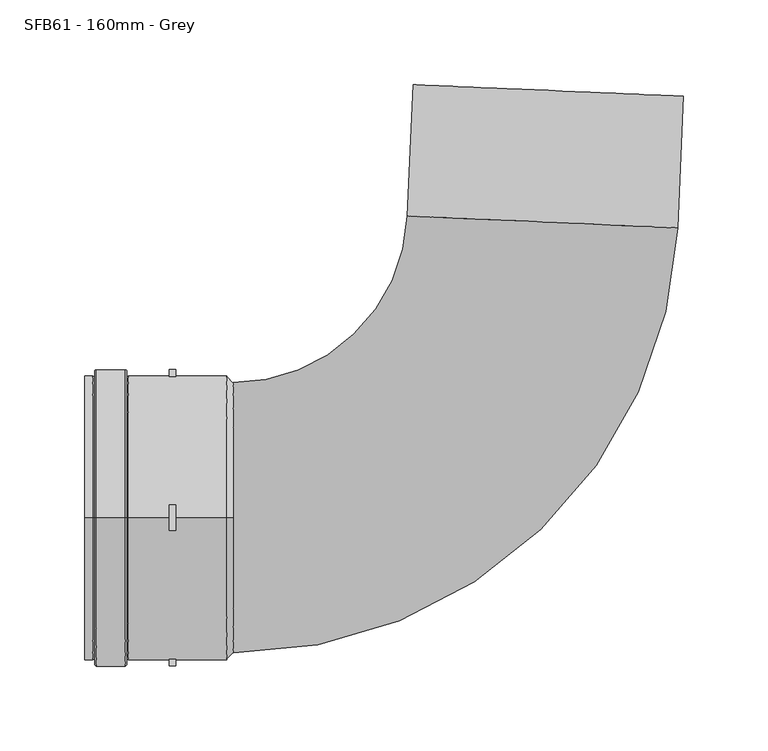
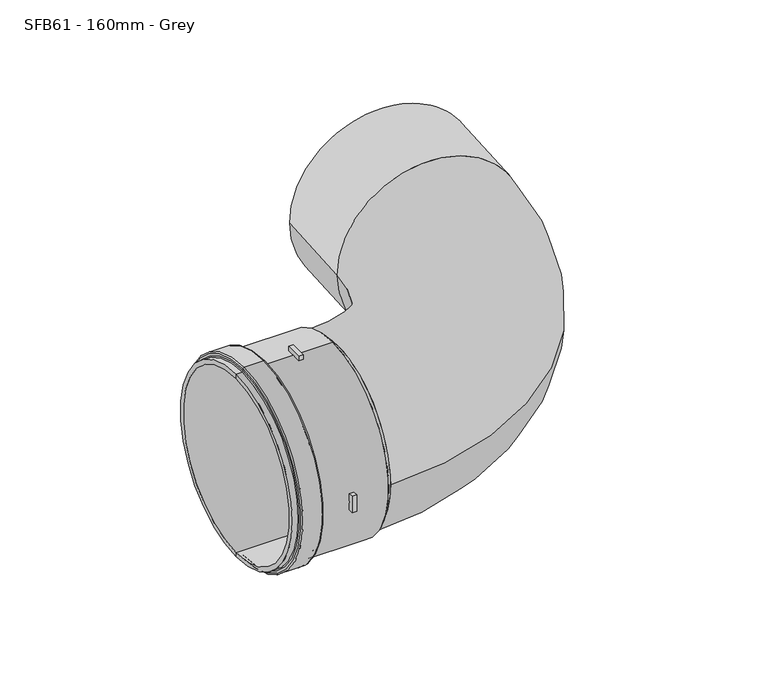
"""IFC4 building model written with IfcOpenShell, lengths in millimetres: pipe fitting geometry, MarleyPlumbingAndDrainage_PipeFitting_ShortRadiusBend87-5 : SFB61 - 160mm - Grey."""

from ifc_helpers import new_model, si_unit, point, frame, origin, origin_2d, place, context, project, spatial, polyline, circle_curve, ellipse_curve, trimmed, segment, composite_curve, outline, extrude, source, transform, mapped, element, save
from ifc_brep_helpers import plane_surface, cylinder_surface, revolved_surface, advanced_brep


def sfb61_160mm_grey_c58e272d(model_context):
    return source(origin(), model_context, "Body", "SolidModel", [
        extrude(outline(composite_curve([segment(trimmed(circle_curve(origin_2d(), 84.0), [point((-7.5, -83.6645086))], [point((7.5, -83.6645086))], True, "CARTESIAN"), True, "CONTINUOUS"), segment(polyline([(7.5, -83.6645086), (7.5, -87.6798152)]), True, "CONTINUOUS"), segment(trimmed(circle_curve(origin_2d(), 88.0), [point((7.5, -87.6798152))], [point((-7.5, -87.6798152))], False, "CARTESIAN"), True, "CONTINUOUS"), segment(polyline([(-7.5, -87.6798152), (-7.5, -83.6645086)]), True, "CONTINUOUS")], self_intersect=False)), frame((-227.9511769, 0.0, 0.0), z_axis=(1.0, 0.0, 0.0), x_axis=(0.0, 1.0, 0.0)), (0.0, 0.0, 1.0), 4.0),
        extrude(outline(composite_curve([segment(trimmed(circle_curve(origin_2d(), 84.0), [point((7.5, 83.6645086))], [point((-7.5, 83.6645086))], True, "CARTESIAN"), True, "CONTINUOUS"), segment(polyline([(-7.5, 83.6645086), (-7.5, 87.6798152)]), True, "CONTINUOUS"), segment(trimmed(circle_curve(origin_2d(), 88.0), [point((-7.5, 87.6798152))], [point((7.5, 87.6798152))], False, "CARTESIAN"), True, "CONTINUOUS"), segment(polyline([(7.5, 87.6798152), (7.5, 83.6645086)]), True, "CONTINUOUS")], self_intersect=False)), frame((-227.9511769, 0.0, 0.0), z_axis=(1.0, 0.0, 0.0), x_axis=(0.0, 1.0, 0.0)), (0.0, 0.0, 1.0), 4.0),
        extrude(outline(composite_curve([segment(trimmed(circle_curve(origin_2d(), 84.0), [point((-83.6645086, 7.5))], [point((-83.6645086, -7.5))], True, "CARTESIAN"), True, "CONTINUOUS"), segment(polyline([(-83.6645086, -7.5), (-87.6798152, -7.5)]), True, "CONTINUOUS"), segment(trimmed(circle_curve(origin_2d(), 88.0), [point((-87.6798152, -7.5))], [point((-87.6798152, 7.5))], False, "CARTESIAN"), True, "CONTINUOUS"), segment(polyline([(-87.6798152, 7.5), (-83.6645086, 7.5)]), True, "CONTINUOUS")], self_intersect=False)), frame((-227.9511769, 0.0, 0.0), z_axis=(1.0, 0.0, 0.0), x_axis=(0.0, 1.0, 0.0)), (0.0, 0.0, 1.0), 4.0),
        extrude(outline(composite_curve([segment(trimmed(circle_curve(origin_2d(), 84.0), [point((83.6645086, -7.5))], [point((83.6645086, 7.5))], True, "CARTESIAN"), True, "CONTINUOUS"), segment(polyline([(83.6645086, 7.5), (87.6798152, 7.5)]), True, "CONTINUOUS"), segment(trimmed(circle_curve(origin_2d(), 88.0), [point((87.6798152, 7.5))], [point((87.6798152, -7.5))], False, "CARTESIAN"), True, "CONTINUOUS"), segment(polyline([(87.6798152, -7.5), (83.6645086, -7.5)]), True, "CONTINUOUS")], self_intersect=False)), frame((-227.9511769, 0.0, 0.0), z_axis=(1.0, 0.0, 0.0), x_axis=(0.0, 1.0, 0.0)), (0.0, 0.0, 1.0), 4.0),
        advanced_brep(
        [(-277.9511769, 0.0, 84.0), (-277.9511769, 0.0, -84.0), (-272.957674, 0.0, -84.0), (-272.957674, 0.0, 84.0), (-277.9511769, 0.0, 80.0), (-277.9511769, 0.0, -80.0), (-193.9511769, 0.0, 80.0), (-193.9511769, 0.0, -80.0), (-193.9511769, 0.0, 0.0), (-193.9511769, 0.0, 84.0), (-193.9511769, 0.0, -84.0), (-189.9511769, 0.0, -80.0), (-189.9511769, 0.0, 80.0), (-251.9769253, 0.0, 84.0), (-251.9769253, 0.0, -84.0), (-252.9511769, 0.0, 84.9742516), (-252.9511769, 0.0, -84.9742516), (-252.9511769, 0.0, 87.0187521), (-252.9511769, 0.0, -87.0187521), (-253.9324248, 0.0, 88.0), (-253.9324248, 0.0, -88.0), (-270.9072456, 0.0, 88.0), (-270.9072456, 0.0, -88.0), (-271.9511769, 0.0, 86.9560687), (-271.9511769, 0.0, -86.9560687), (-271.9511769, 0.0, 85.0064971), (-271.9511769, 0.0, -85.0064971), (-189.9511769, 0.0, 0.0)],
        [
            (0, 1, circle_curve(frame((-277.9511769, 0.0, 0.0), z_axis=(1.0, 0.0, 0.0), x_axis=(0.0, 0.0, -1.0)), 84.0)),
            (1, 2),
            (2, 3, circle_curve(frame((-272.957674, 0.0, 0.0), z_axis=(-1.0, 0.0, 0.0), x_axis=(0.0, 0.0, -1.0)), 84.0)),
            (3, 0),
            (1, 0, circle_curve(frame((-277.9511769, 0.0, 0.0), z_axis=(1.0, 0.0, 0.0), x_axis=(0.0, 0.0, -1.0)), 84.0)),
            (3, 2, circle_curve(frame((-272.957674, 0.0, 0.0), z_axis=(-1.0, 0.0, 0.0), x_axis=(0.0, 0.0, -1.0)), 84.0)),
            (4, 5, circle_curve(frame((-277.9511769, 0.0, 0.0), z_axis=(1.0, 0.0, 0.0), x_axis=(0.0, 0.0, -1.0)), 80.0)),
            (5, 1),
            (0, 4),
            (5, 4, circle_curve(frame((-277.9511769, 0.0, 0.0), z_axis=(1.0, 0.0, 0.0), x_axis=(0.0, 0.0, -1.0)), 80.0)),
            (6, 7, circle_curve(frame((-193.9511769, 0.0, 0.0), z_axis=(1.0, 0.0, 0.0), x_axis=(0.0, 0.0, -1.0)), 80.0)),
            (7, 5),
            (4, 6),
            (7, 6, circle_curve(frame((-193.9511769, 0.0, 0.0), z_axis=(1.0, 0.0, 0.0), x_axis=(0.0, 0.0, -1.0)), 80.0)),
            (8, 7),
            (6, 8),
            (9, 10, circle_curve(frame((-193.9511769, 0.0, 0.0), z_axis=(1.0, 0.0, 0.0), x_axis=(0.0, 0.0, -1.0)), 84.0)),
            (10, 11),
            (11, 12, circle_curve(frame((-189.9511769, 0.0, 0.0), z_axis=(-1.0, 0.0, 0.0), x_axis=(0.0, 0.0, -1.0)), 80.0)),
            (12, 9),
            (10, 9, circle_curve(frame((-193.9511769, 0.0, 0.0), z_axis=(1.0, 0.0, 0.0), x_axis=(0.0, 0.0, -1.0)), 84.0)),
            (12, 11, circle_curve(frame((-189.9511769, 0.0, 0.0), z_axis=(-1.0, 0.0, 0.0), x_axis=(0.0, 0.0, -1.0)), 80.0)),
            (13, 14, circle_curve(frame((-251.9769253, 0.0, 0.0), z_axis=(1.0, 0.0, 0.0), x_axis=(0.0, 0.0, -1.0)), 84.0)),
            (14, 10),
            (9, 13),
            (14, 13, circle_curve(frame((-251.9769253, 0.0, 0.0), z_axis=(1.0, 0.0, 0.0), x_axis=(0.0, 0.0, -1.0)), 84.0)),
            (15, 16, circle_curve(frame((-252.9511769, 0.0, 0.0), z_axis=(1.0, 0.0, 0.0), x_axis=(0.0, 0.0, -1.0)), 84.9742516)),
            (16, 14, circle_curve(frame((-251.9769253, 0.0, -84.9742516), z_axis=(0.0, 1.0, 0.0), x_axis=(1.0, 0.0, 0.0)), 0.9742516)),
            (13, 15, circle_curve(frame((-251.9769253, 0.0, 84.9742516), z_axis=(0.0, 1.0, 0.0), x_axis=(1.0, 0.0, 0.0)), 0.9742516)),
            (16, 15, circle_curve(frame((-252.9511769, 0.0, 0.0), z_axis=(1.0, 0.0, 0.0), x_axis=(0.0, 0.0, -1.0)), 84.9742516)),
            (17, 18, circle_curve(frame((-252.9511769, 0.0, 0.0), z_axis=(1.0, 0.0, 0.0), x_axis=(0.0, 0.0, -1.0)), 87.0187521)),
            (18, 16),
            (15, 17),
            (18, 17, circle_curve(frame((-252.9511769, 0.0, 0.0), z_axis=(1.0, 0.0, 0.0), x_axis=(0.0, 0.0, -1.0)), 87.0187521)),
            (19, 20, circle_curve(frame((-253.9324248, 0.0, 0.0), z_axis=(1.0, 0.0, 0.0), x_axis=(0.0, 0.0, -1.0)), 88.0)),
            (20, 18, circle_curve(frame((-253.9324248, 0.0, -87.0187521), z_axis=(0.0, -1.0, 0.0), x_axis=(1.0, 0.0, 0.0)), 0.9812479)),
            (17, 19, circle_curve(frame((-253.9324248, 0.0, 87.0187521), z_axis=(0.0, -1.0, 0.0), x_axis=(1.0, 0.0, 0.0)), 0.9812479)),
            (20, 19, circle_curve(frame((-253.9324248, 0.0, 0.0), z_axis=(1.0, 0.0, 0.0), x_axis=(0.0, 0.0, -1.0)), 88.0)),
            (21, 22, circle_curve(frame((-270.9072456, 0.0, 0.0), z_axis=(1.0, 0.0, 0.0), x_axis=(0.0, 0.0, -1.0)), 88.0)),
            (22, 20),
            (19, 21),
            (22, 21, circle_curve(frame((-270.9072456, 0.0, 0.0), z_axis=(1.0, 0.0, 0.0), x_axis=(0.0, 0.0, -1.0)), 88.0)),
            (23, 24, circle_curve(frame((-271.9511769, 0.0, 0.0), z_axis=(1.0, 0.0, 0.0), x_axis=(0.0, 0.0, -1.0)), 86.9560687)),
            (24, 22, circle_curve(frame((-270.9072456, 0.0, -86.9560687), z_axis=(0.0, -1.0, 0.0), x_axis=(1.0, 0.0, 0.0)), 1.0439313)),
            (21, 23, circle_curve(frame((-270.9072456, 0.0, 86.9560687), z_axis=(0.0, -1.0, 0.0), x_axis=(1.0, 0.0, 0.0)), 1.0439313)),
            (24, 23, circle_curve(frame((-271.9511769, 0.0, 0.0), z_axis=(1.0, 0.0, 0.0), x_axis=(0.0, 0.0, -1.0)), 86.9560687)),
            (25, 26, circle_curve(frame((-271.9511769, 0.0, 0.0), z_axis=(1.0, 0.0, 0.0), x_axis=(0.0, 0.0, -1.0)), 85.0064971)),
            (26, 24),
            (23, 25),
            (26, 25, circle_curve(frame((-271.9511769, 0.0, 0.0), z_axis=(1.0, 0.0, 0.0), x_axis=(0.0, 0.0, -1.0)), 85.0064971)),
            (2, 26, circle_curve(frame((-272.957674, 0.0, -85.0064971), z_axis=(0.0, 1.0, 0.0), x_axis=(1.0, 0.0, 0.0)), 1.0064971)),
            (25, 3, circle_curve(frame((-272.957674, 0.0, 85.0064971), z_axis=(0.0, 1.0, 0.0), x_axis=(1.0, 0.0, 0.0)), 1.0064971)),
            (11, 27),
            (27, 12),
        ],
        [
            cylinder_surface(frame((-317.9511769, 0.0, 0.0), z_axis=(-1.0, 0.0, 0.0), x_axis=(0.0, 0.0, -1.0)), 84.0),
            plane_surface(frame((-277.9511769, 0.0, 0.0), z_axis=(-1.0, 0.0, 0.0), x_axis=(0.0, 0.0, -1.0))),
            revolved_surface(polyline([(-277.9511769, 0.0, -80.0), (-193.9511769, 0.0, -80.0)]), (-317.9511769, 0.0, 0.0), (-1.0, 0.0, 0.0)),
            plane_surface(frame((-193.9511769, 0.0, 0.0), z_axis=(-1.0, 0.0, 0.0), x_axis=(0.0, 0.0, -1.0))),
            revolved_surface(polyline([(-189.9511769, 0.0, -80.0), (-193.9511769, 0.0, -84.0)]), (-317.9511769, 0.0, 0.0), (-1.0, 0.0, 0.0)),
            revolved_surface(trimmed(ellipse_curve(frame((-251.9769253, 0.0, -84.9742516), z_axis=(0.0, -1.0, 0.0), x_axis=(1.0, 0.0, 0.0)), 0.9742516, 0.9742516), [point((-251.9769253, 0.0, -84.0))], [point((-252.9511769, 0.0, -84.9742516))], True, "CARTESIAN"), (-317.9511769, 0.0, 0.0), (-1.0, 0.0, 0.0)),
            plane_surface(frame((-252.9511769, 0.0, 0.0), z_axis=(1.0, 0.0, 0.0), x_axis=(0.0, 0.0, -1.0))),
            revolved_surface(trimmed(ellipse_curve(frame((-253.9324248, 0.0, -87.0187521), z_axis=(0.0, 1.0, 0.0), x_axis=(1.0, 0.0, 0.0)), 0.9812479, 0.9812479), [point((-252.9511769, 0.0, -87.0187521))], [point((-253.9324248, 0.0, -88.0))], True, "CARTESIAN"), (-317.9511769, 0.0, 0.0), (-1.0, 0.0, 0.0)),
            cylinder_surface(frame((-317.9511769, 0.0, 0.0), z_axis=(-1.0, 0.0, 0.0), x_axis=(0.0, 0.0, -1.0)), 88.0),
            revolved_surface(trimmed(ellipse_curve(frame((-270.9072456, 0.0, -86.9560687), z_axis=(0.0, 1.0, 0.0), x_axis=(1.0, 0.0, 0.0)), 1.0439313, 1.0439313), [point((-270.9072456, 0.0, -88.0))], [point((-271.9511769, 0.0, -86.9560687))], True, "CARTESIAN"), (-317.9511769, 0.0, 0.0), (-1.0, 0.0, 0.0)),
            plane_surface(frame((-271.9511769, 0.0, 0.0), z_axis=(-1.0, 0.0, 0.0), x_axis=(0.0, 0.0, -1.0))),
            revolved_surface(trimmed(ellipse_curve(frame((-272.957674, 0.0, -85.0064971), z_axis=(0.0, -1.0, 0.0), x_axis=(1.0, 0.0, 0.0)), 1.0064971, 1.0064971), [point((-271.9511769, 0.0, -85.0064971))], [point((-272.957674, 0.0, -84.0))], True, "CARTESIAN"), (-317.9511769, 0.0, 0.0), (-1.0, 0.0, 0.0)),
            plane_surface(frame((-189.9511769, 0.0, 0.0), z_axis=(1.0, 0.0, 0.0), x_axis=(0.0, 0.0, -1.0))),
        ],
        [
            (0, [[1, 2, 3, 4]]),
            (0, [[5, -4, 6, -2]]),
            (1, [[7, 8, -1, 9]]),
            (1, [[10, -9, -5, -8]]),
            (2, [[11, 12, -7, 13]]),
            (2, [[14, -13, -10, -12]]),
            (3, [[15, -11, 16]]),
            (3, [[-16, -14, -15]]),
            (4, [[17, 18, 19, 20]]),
            (4, [[21, -20, 22, -18]]),
            (0, [[23, 24, -17, 25]]),
            (0, [[26, -25, -21, -24]]),
            (5, [[27, 28, -23, 29]]),
            (5, [[30, -29, -26, -28]]),
            (6, [[31, 32, -27, 33]]),
            (6, [[34, -33, -30, -32]]),
            (7, [[35, 36, -31, 37]]),
            (7, [[38, -37, -34, -36]]),
            (8, [[39, 40, -35, 41]]),
            (8, [[42, -41, -38, -40]]),
            (9, [[43, 44, -39, 45]]),
            (9, [[46, -45, -42, -44]]),
            (10, [[47, 48, -43, 49]]),
            (10, [[50, -49, -46, -48]]),
            (11, [[-3, 51, -47, 52]]),
            (11, [[-6, -52, -50, -51]]),
            (12, [[-19, 53, 54]]),
            (12, [[-22, -54, -53]]),
        ],
    ),
        advanced_brep(
        [(-189.9511769, -80.0, 0.0), (-189.9511769, 80.0, 0.0), (-87.0492101, 178.5072031, 0.0), (72.7985054, 171.5281011, 0.0), (76.1975793, 249.3796943, 0.0), (-83.6501361, 256.3587963, 0.0)],
        [
            (0, 1, circle_curve(frame((-189.9511769, 0.0, 0.0), z_axis=(-1.0, 0.0, 0.0), x_axis=(0.0, 1.0, 0.0)), 80.0)),
            (1, 0, circle_curve(frame((-189.9511769, 0.0, 0.0), z_axis=(-1.0, 0.0, 0.0), x_axis=(0.0, 1.0, 0.0)), 80.0)),
            (2, 1, circle_curve(frame((-189.9511769, 183.0, 0.0), z_axis=(0.0, 0.0, -1.0), x_axis=(0.0, -1.0, 0.0)), 103.0)),
            (0, 3, circle_curve(frame((-189.9511769, 183.0, 0.0), z_axis=(0.0, 0.0, 1.0), x_axis=(0.0, -1.0, 0.0)), 263.0)),
            (3, 2, circle_curve(frame((-7.1253524, 175.0176521, 0.0), z_axis=(-0.04361938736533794, -0.9990482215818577, 0.0), x_axis=(-0.9990482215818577, 0.04361938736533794, 0.0)), 80.0)),
            (2, 3, circle_curve(frame((-7.1253524, 175.0176521, 0.0), z_axis=(-0.04361938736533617, -0.9990482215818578, 0.0), x_axis=(-0.9990482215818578, 0.04361938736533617, 0.0)), 80.0)),
            (4, 5, circle_curve(frame((-3.7262784, 252.8692453, 0.0), z_axis=(0.0436193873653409, 0.9990482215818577, 0.0), x_axis=(-0.9990482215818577, 0.0436193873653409, 0.0)), 80.0)),
            (5, 4, circle_curve(frame((-3.7262784, 252.8692453, 0.0), z_axis=(0.0436193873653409, 0.9990482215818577, 0.0), x_axis=(-0.9990482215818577, 0.0436193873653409, 0.0)), 80.0)),
            (3, 4),
            (5, 2),
        ],
        [
            plane_surface(frame((-189.9511769, 0.0, 0.0), z_axis=(-1.0, 0.0, 0.0), x_axis=(0.0, 0.0, 1.0))),
            revolved_surface(trimmed(ellipse_curve(frame((-189.9511769, 0.0, 0.0), z_axis=(-1.0, 0.0, 0.0), x_axis=(0.0, 1.0, 0.0)), 80.0, 80.0), [point((-189.9511769, -80.0, 0.0))], [point((-189.9511769, 80.0, 0.0))], True, "CARTESIAN"), (-189.9511769, 183.0, 0.0), (0.0, 0.0, 1.0)),
            revolved_surface(trimmed(ellipse_curve(frame((-189.9511769, 0.0, 0.0), z_axis=(-1.0, 0.0, 0.0), x_axis=(0.0, 1.0, 0.0)), 80.0, 80.0), [point((-189.9511769, 80.0, 0.0))], [point((-189.9511769, -80.0, 0.0))], True, "CARTESIAN"), (-189.9511769, 183.0, 0.0), (0.0, 0.0, 1.0)),
            plane_surface(frame((-3.7262784, 252.8692453, 0.0), z_axis=(0.0436193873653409, 0.9990482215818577, 0.0), x_axis=(0.0, 0.0, 1.0))),
            cylinder_surface(frame((-7.1253524, 175.0176521, 0.0), z_axis=(-0.0436193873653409, -0.9990482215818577, 0.0), x_axis=(-0.9990482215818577, 0.0436193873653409, 0.0)), 80.0),
        ],
        [
            (0, [[1, 2]]),
            (1, [[3, -1, 4, 5]]),
            (2, [[-4, -2, -3, 6]]),
            (3, [[7, 8]]),
            (4, [[-5, 9, -8, 10]]),
            (4, [[-6, -10, -7, -9]]),
        ],
    ),
    ])


if __name__ == "__main__":
    model = new_model("IFC4")
    model_context = context("Model", 3, world=origin())
    ifc_project = project(units=[si_unit("LENGTHUNIT", "METRE", prefix="MILLI")], contexts=[model_context])
    site = spatial("IfcSite", under=ifc_project)
    building = spatial("IfcBuilding", under=site)
    placement = place(None, origin())
    sfb61_160mm_grey_shape = sfb61_160mm_grey_c58e272d(model_context)
    element("IfcPipeFitting", 1, ObjectType="MarleyPlumbingAndDrainage_PipeFitting_ShortRadiusBend87-5 : SFB61 - 160mm - Grey", at=placement, inside=building, context=model_context, shape_type="MappedRepresentation", body=[
        mapped(sfb61_160mm_grey_shape, transform((0.0, 0.0, 0.0), x_axis=(1.0, 0.0, 0.0), y_axis=(0.0, 1.0, 0.0), z_axis=(0.0, 0.0, 1.0))),
    ])
    save(model, "model.ifc")
